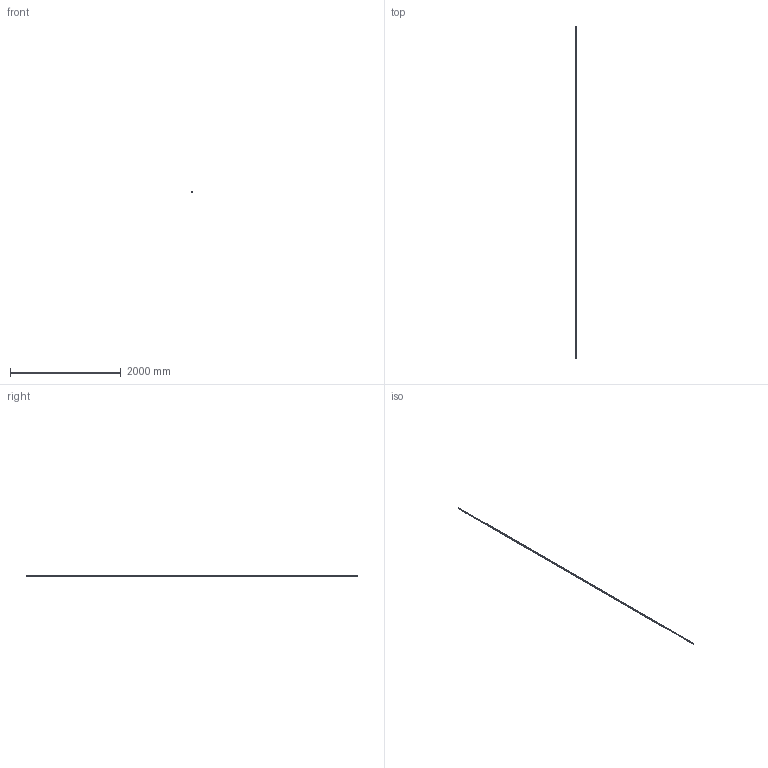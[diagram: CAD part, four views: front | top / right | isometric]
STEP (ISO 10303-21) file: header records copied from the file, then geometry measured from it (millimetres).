
FILE_DESCRIPTION(/* description */ ('Bodenfuehrungsschiene Nr.12'),/* implementation_level */ '2;1');
FILE_NAME(/* name */ 'Q:\sge-ma\Produktmanagement-STB\STB\Workspace\TraceParts\Bodenführungsschiene, feuerverzinkt\010337121.stp',/* time_stamp */ '2018-03-07T10:44:39+01:00',/* author */ ('avschreier'),/* organization */ (''),/* preprocessor_version */ 'ST-DEVELOPER v16.1',/* originating_system */ 'Autodesk Inventor 2016',/* authorisation */ '');
FILE_SCHEMA (('CONFIG_CONTROL_DESIGN'));
Length unit declared in the file: millimetre
Products named in the file (1): 010337121
Bounding box: 15 x 6000 x 16.5 mm (x, y, z)
Volume: 471044.4 mm3; surface area: 495659.8 mm2
Topology: 1 solids, 1 shells, 190 faces, 476 edges, 276 vertices
Faces by surface type: plane 54, torus 48, bspline 48, cone 24, cylinder 16
Full cylindrical faces by diameter (mm): 6 x12
Entity records: 9176 total; most frequent: CARTESIAN_POINT 5071, DIRECTION 842, ORIENTED_EDGE 832, EDGE_CURVE 416, AXIS2_PLACEMENT_3D 379, VERTEX_POINT 252, EDGE_LOOP 238, CIRCLE 236
